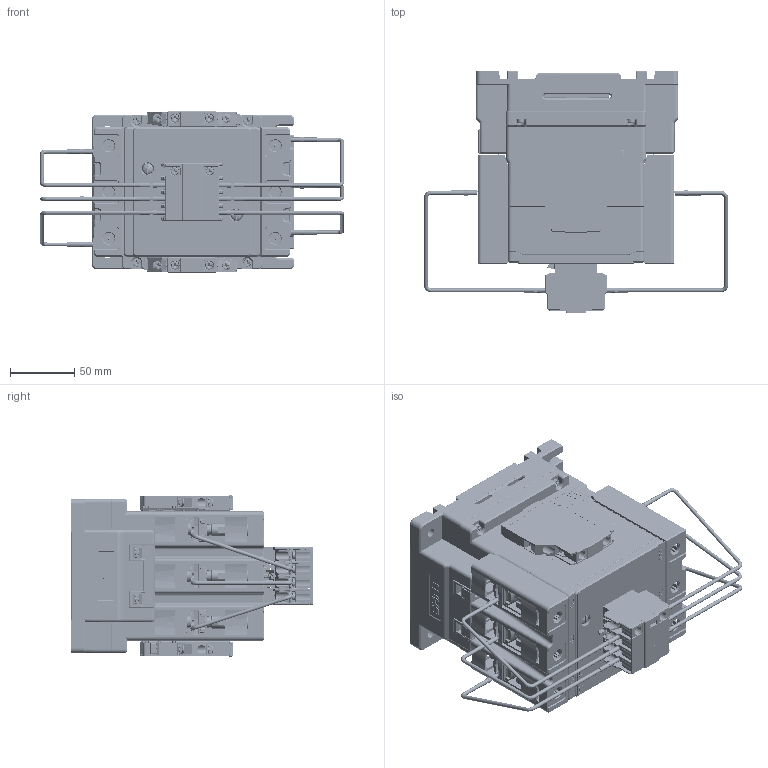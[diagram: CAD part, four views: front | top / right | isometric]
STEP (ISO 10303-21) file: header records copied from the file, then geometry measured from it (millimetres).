
FILE_DESCRIPTION((''),'2;1');
FILE_NAME('2400C1656_ASM','2025-03-04T13:36:05',('zyongj'),(''),'CREO PARAMETRIC BY PTC INC, 2020044','CREO PARAMETRIC BY PTC INC, 2020044','');
FILE_SCHEMA(('CONFIG_CONTROL_DESIGN','SHAPE_APPEARANCE_LAYERS_GROUPS'));
Products named in the file (223): 8ZTD-024-816; SP110356_AF0; SP110356_AF1; SP110356_AF2; SP110356_AF3; SP110356_AF4; SP110356_AF5; 8ZTD-574-364; 5024C1747_ASM; 8744C1605; 8ZTD-937-033; 8ZTD-993-154; 8ZTD-282-889_AF0; 8ZTD-282-889_AF1; 5740C1605_ASM; 8ZTD-315-1145_AF0; 5740C1607_ASM; 8022C1632; 5022C1654_ASM; 8ZTJ-907-017_AF4; 8ZTJ-907-017_AF5; 8ZTJ-907-017_AF6; 8ZTJ-907-017_AF7; 8ZTD-732-354; 8ZTD-516-193; 8ZTJ-907-002; 8ZTJ-950-003_AF0; 5ZTJ-850-001_ASM; QBX_AF1; 8ZTD-315-815; 5ZTD-520-511_ASM; 8ZTD-005-558; 8ZTD-315-1190-1; 8ZTJ-557-160; 8ZTJ-550-087-ZP1_AF4; 8ZTJ-550-087-ZP2_AF4; 8ZTJ-550-087-1_4_AF2_ASM; 5ZTJ-550-180-1_2_AF1_ASM; 8ZTJ-950-003_AF2; 5ZTJ-850-001_AF1_ASM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
Assembly tree (294 placements, depth 7):
  2400C1656_ASM
    2400C1664001_020_ASM
      5024C1747_ASM
        8ZTD-024-816
        SP110356_AF0
        SP110356_AF1
        SP110356_AF2
        SP110356_AF3
        SP110356_AF4
        SP110356_AF5
        8ZTD-574-364  x6
      5740C1607_ASM
        5740C1605_ASM
          8744C1605
          8ZTD-937-033  x2
          8ZTD-993-154  x2
          8ZTD-282-889_AF0
          8ZTD-282-889_AF1
        8ZTD-315-1145_AF0
      5022C1654_ASM
        8022C1632
      8ZTJ-907-017_AF4
      8ZTJ-907-017_AF5
      8ZTJ-907-017_AF6
      8ZTJ-907-017_AF7
      5ZTD-520-511_ASM
        8ZTD-732-354
        8ZTD-516-193  x2
        5ZTJ-850-001_ASM  x4
          8ZTJ-907-002
          8ZTJ-950-003_AF0
        QBX_AF1
        8ZTD-315-815  x4
      5ZTD-559-493-1_AF0_ASM
        8ZTD-005-558
        8ZTD-315-1190-1
        5ZTJ-550-182_AF1_ASM
          5ZTJ-550-180-1_2_AF1_ASM
            8ZTJ-557-160
            8ZTJ-550-087-1_4_AF2_ASM
              8ZTJ-550-087-ZP1_AF4
              8ZTJ-550-087-ZP2_AF4
          5ZTJ-850-001_AF1_ASM
            8ZTJ-907-002
            8ZTJ-950-003_AF2
        8ZTD-261-104
        8ZTD-315-1211
        8ZTJ-282-211_AF1
        5ZTJ-550-182_AF0_ASM
          5ZTJ-550-180-1_2_AF0_ASM
            8ZTJ-557-160
            8ZTJ-550-087-1_4_AF4_ASM
              8ZTJ-550-087-ZP1_AF5
              8ZTJ-550-087-ZP2_AF5
          5ZTJ-850-001_AF0_ASM
            8ZTJ-907-002
            8ZTJ-950-003_AF4
        5ZTJ-550-181_AF1_ASM
          5ZTJ-550-179-1_2_AF0_ASM
            8ZTJ-557-159
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Bounding box: 236.2 x 188.6 x 125.3 mm (x, y, z)
Volume: 866483.3 mm3; surface area: 749871.7 mm2
Topology: 241 solids, 320 shells, 28061 faces, 74145 edges, 47206 vertices
Faces by surface type: plane 16998, cylinder 7376, cone 878, sphere 824, torus 823, extrusion 764, bspline 398
Entity records: 821277 total; most frequent: CARTESIAN_POINT 184277, ORIENTED_EDGE 92926, DIRECTION 86467, PRESENTATION_STYLE_ASSIGNMENT 53435, STYLED_ITEM 52884, EDGE_CURVE 46505, CURVE_STYLE 44700, VECTOR 32919
